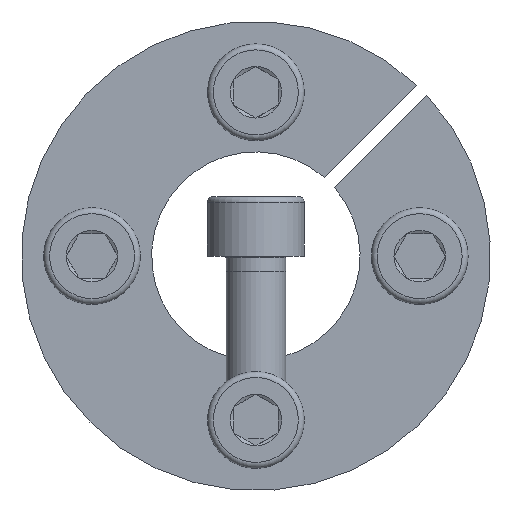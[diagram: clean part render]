
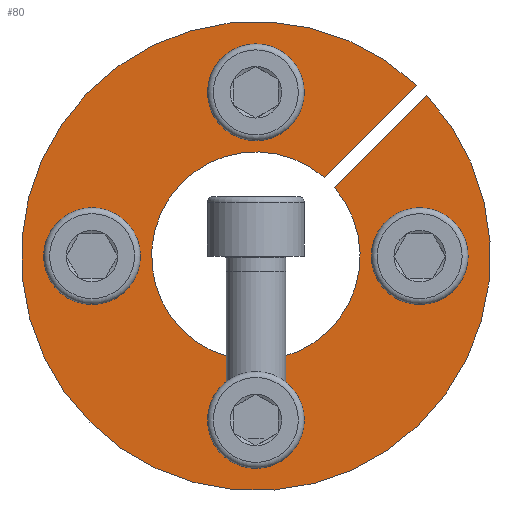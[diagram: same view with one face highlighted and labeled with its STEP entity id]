
A CAD part, front view. The second image highlights one B-rep face of the part: STEP entity #80.
In plain terms, the highlighted planar face has unit normal (0, -1, 0).
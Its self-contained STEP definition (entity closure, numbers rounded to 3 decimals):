
#80 = ADVANCED_FACE( '', ( #171, #172, #173, #174, #175 ), #176, .F. );
#171 = FACE_OUTER_BOUND( '', #277, .T. );
#172 = FACE_BOUND( '', #278, .T. );
#173 = FACE_BOUND( '', #279, .T. );
#174 = FACE_BOUND( '', #280, .T. );
#175 = FACE_BOUND( '', #281, .T. );
#176 = PLANE( '', #282 );
#277 = EDGE_LOOP( '', ( #438, #439, #440, #441 ) );
#278 = EDGE_LOOP( '', ( #442 ) );
#279 = EDGE_LOOP( '', ( #443 ) );
#280 = EDGE_LOOP( '', ( #444 ) );
#281 = EDGE_LOOP( '', ( #445 ) );
#282 = AXIS2_PLACEMENT_3D( '', #446, #447, #448 );
#438 = ORIENTED_EDGE( '', *, *, #637, .T. );
#439 = ORIENTED_EDGE( '', *, *, #638, .T. );
#440 = ORIENTED_EDGE( '', *, *, #639, .T. );
#441 = ORIENTED_EDGE( '', *, *, #626, .F. );
#442 = ORIENTED_EDGE( '', *, *, #640, .F. );
#443 = ORIENTED_EDGE( '', *, *, #607, .F. );
#444 = ORIENTED_EDGE( '', *, *, #593, .F. );
#445 = ORIENTED_EDGE( '', *, *, #641, .F. );
#446 = CARTESIAN_POINT( '', ( 0., 0., 31.5 ) );
#447 = DIRECTION( '', ( 0., 1., 0. ) );
#448 = DIRECTION( '', ( 1., 0., 0. ) );
#593 = EDGE_CURVE( '', #720, #720, #721, .T. );
#607 = EDGE_CURVE( '', #745, #745, #746, .T. );
#626 = EDGE_CURVE( '', #776, #778, #779, .T. );
#637 = EDGE_CURVE( '', #776, #796, #797, .T. );
#638 = EDGE_CURVE( '', #796, #798, #799, .T. );
#639 = EDGE_CURVE( '', #798, #778, #800, .T. );
#640 = EDGE_CURVE( '', #801, #801, #802, .T. );
#641 = EDGE_CURVE( '', #803, #803, #804, .T. );
#720 = VERTEX_POINT( '', #967 );
#721 = CIRCLE( '', #968, 4.5 );
#745 = VERTEX_POINT( '', #994 );
#746 = CIRCLE( '', #995, 4.5 );
#776 = VERTEX_POINT( '', #1039 );
#778 = VERTEX_POINT( '', #1042 );
#779 = CIRCLE( '', #1043, 14. );
#796 = VERTEX_POINT( '', #1063 );
#797 = LINE( '', #1064, #1065 );
#798 = VERTEX_POINT( '', #1066 );
#799 = CIRCLE( '', #1067, 31.5 );
#800 = LINE( '', #1068, #1069 );
#801 = VERTEX_POINT( '', #1070 );
#802 = CIRCLE( '', #1071, 4.5 );
#803 = VERTEX_POINT( '', #1072 );
#804 = CIRCLE( '', #1073, 4.5 );
#967 = CARTESIAN_POINT( '', ( -4.5, 0., -22. ) );
#968 = AXIS2_PLACEMENT_3D( '', #1131, #1132, #1133 );
#994 = CARTESIAN_POINT( '', ( 22., 0., -4.5 ) );
#995 = AXIS2_PLACEMENT_3D( '', #1160, #1161, #1162 );
#1039 = CARTESIAN_POINT( '', ( 9.167, 0., 10.581 ) );
#1042 = CARTESIAN_POINT( '', ( 10.581, 0., 9.167 ) );
#1043 = AXIS2_PLACEMENT_3D( '', #1187, #1188, #1189 );
#1063 = CARTESIAN_POINT( '', ( 21.556, 0., 22.97 ) );
#1064 = CARTESIAN_POINT( '', ( 9.167, 0., 10.581 ) );
#1065 = VECTOR( '', #1208, 1000. );
#1066 = CARTESIAN_POINT( '', ( 22.97, 0., 21.556 ) );
#1067 = AXIS2_PLACEMENT_3D( '', #1209, #1210, #1211 );
#1068 = CARTESIAN_POINT( '', ( 22.981, 0., 21.567 ) );
#1069 = VECTOR( '', #1212, 1000. );
#1070 = CARTESIAN_POINT( '', ( 4.5, 0., 22. ) );
#1071 = AXIS2_PLACEMENT_3D( '', #1213, #1214, #1215 );
#1072 = CARTESIAN_POINT( '', ( -22., 0., 4.5 ) );
#1073 = AXIS2_PLACEMENT_3D( '', #1216, #1217, #1218 );
#1131 = CARTESIAN_POINT( '', ( 0., 0., -22. ) );
#1132 = DIRECTION( '', ( 0., -1., 0. ) );
#1133 = DIRECTION( '', ( -1., 0., 0. ) );
#1160 = CARTESIAN_POINT( '', ( 22., 0., 0. ) );
#1161 = DIRECTION( '', ( 0., -1., 0. ) );
#1162 = DIRECTION( '', ( 0., 0., -1. ) );
#1187 = CARTESIAN_POINT( '', ( 0., 0., 0. ) );
#1188 = DIRECTION( '', ( 0., -1., 0. ) );
#1189 = DIRECTION( '', ( 0., 0., -1. ) );
#1208 = DIRECTION( '', ( 0.707, 0., 0.707 ) );
#1209 = CARTESIAN_POINT( '', ( 0., 0., 0. ) );
#1210 = DIRECTION( '', ( 0., -1., 0. ) );
#1211 = DIRECTION( '', ( 0., 0., -1. ) );
#1212 = DIRECTION( '', ( -0.707, 0., -0.707 ) );
#1213 = CARTESIAN_POINT( '', ( 0., 0., 22. ) );
#1214 = DIRECTION( '', ( 0., -1., 0. ) );
#1215 = DIRECTION( '', ( 1., 0., 0. ) );
#1216 = CARTESIAN_POINT( '', ( -22., 0., 0. ) );
#1217 = DIRECTION( '', ( 0., -1., 0. ) );
#1218 = DIRECTION( '', ( 0., 0., 1. ) );
